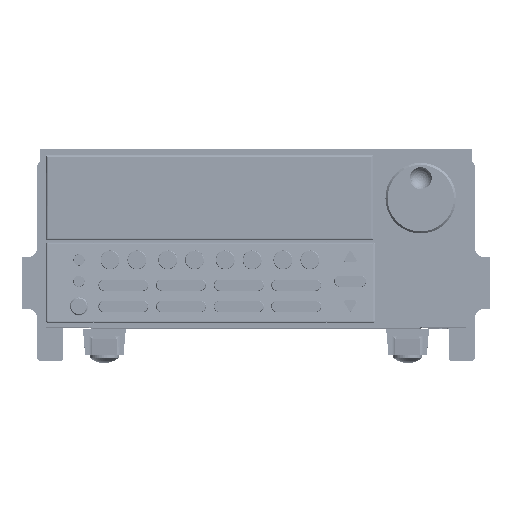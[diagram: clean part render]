
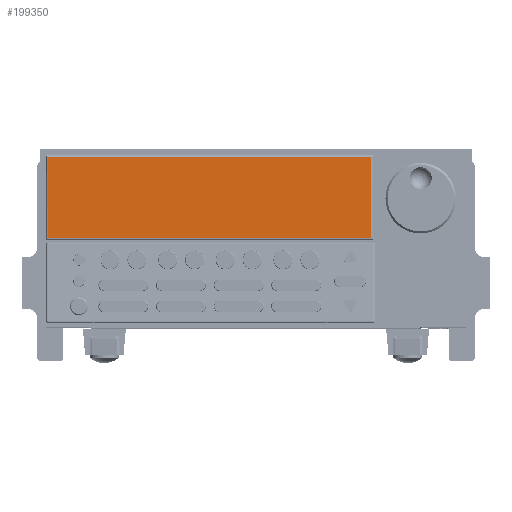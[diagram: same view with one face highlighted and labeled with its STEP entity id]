
A CAD part, top view. The second image highlights one B-rep face of the part: STEP entity #199350.
In plain terms, the highlighted planar face has unit normal (0, 0, 1).
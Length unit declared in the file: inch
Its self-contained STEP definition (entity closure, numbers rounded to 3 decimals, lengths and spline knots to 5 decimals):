
#199139=DIRECTION('',(1.,0.,0.));
#199140=VECTOR('',#199139,6.298);
#199141=CARTESIAN_POINT('',(0.035,0.035,0.093));
#199142=LINE('',#199141,#199140);
#199156=DIRECTION('',(0.,-1.,0.));
#199157=VECTOR('',#199156,1.578);
#199158=CARTESIAN_POINT('',(0.035,1.613,0.093));
#199159=LINE('',#199158,#199157);
#199182=DIRECTION('',(-1.,0.,0.));
#199183=VECTOR('',#199182,6.298);
#199184=CARTESIAN_POINT('',(6.333,1.613,0.093));
#199185=LINE('',#199184,#199183);
#199200=DIRECTION('',(0.,1.,0.));
#199201=VECTOR('',#199200,1.578);
#199202=CARTESIAN_POINT('',(6.333,0.035,0.093));
#199203=LINE('',#199202,#199201);
#199229=CARTESIAN_POINT('',(6.333,0.035,0.093));
#199230=CARTESIAN_POINT('',(6.333,1.613,0.093));
#199231=VERTEX_POINT('',#199229);
#199232=VERTEX_POINT('',#199230);
#199237=CARTESIAN_POINT('',(0.035,0.035,0.093));
#199238=VERTEX_POINT('',#199237);
#199241=CARTESIAN_POINT('',(0.035,1.613,0.093));
#199242=VERTEX_POINT('',#199241);
#199336=CARTESIAN_POINT('',(0.,0.,0.093));
#199337=DIRECTION('',(0.,0.,1.));
#199338=DIRECTION('',(1.,0.,0.));
#199339=AXIS2_PLACEMENT_3D('',#199336,#199337,#199338);
#199340=PLANE('',#199339);
#199342=ORIENTED_EDGE('',*,*,#199341,.F.);
#199344=ORIENTED_EDGE('',*,*,#199343,.F.);
#199346=ORIENTED_EDGE('',*,*,#199345,.F.);
#199347=ORIENTED_EDGE('',*,*,#199326,.F.);
#199348=EDGE_LOOP('',(#199342,#199344,#199346,#199347));
#199349=FACE_OUTER_BOUND('',#199348,.F.);
#199350=ADVANCED_FACE('',(#199349),#199340,.T.);
#199326=EDGE_CURVE('',#199238,#199231,#199142,.T.);
#199341=EDGE_CURVE('',#199242,#199238,#199159,.T.);
#199343=EDGE_CURVE('',#199232,#199242,#199185,.T.);
#199345=EDGE_CURVE('',#199231,#199232,#199203,.T.);
